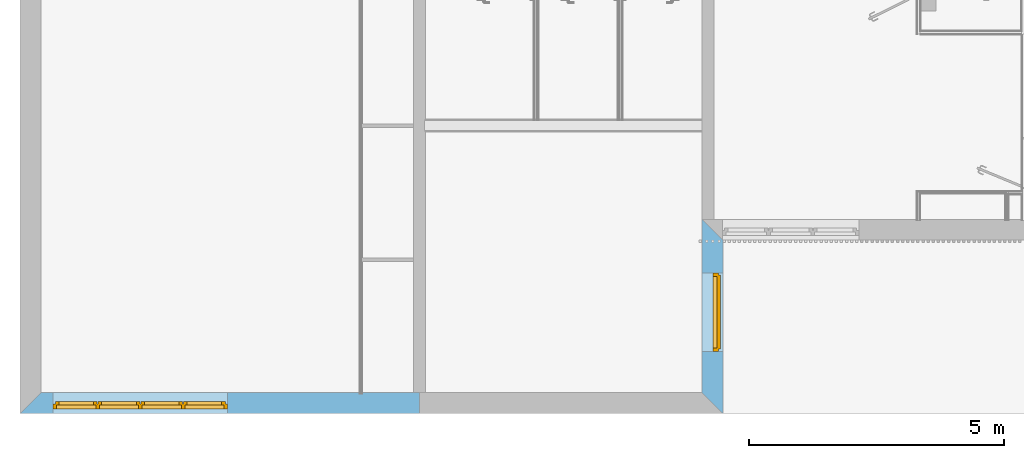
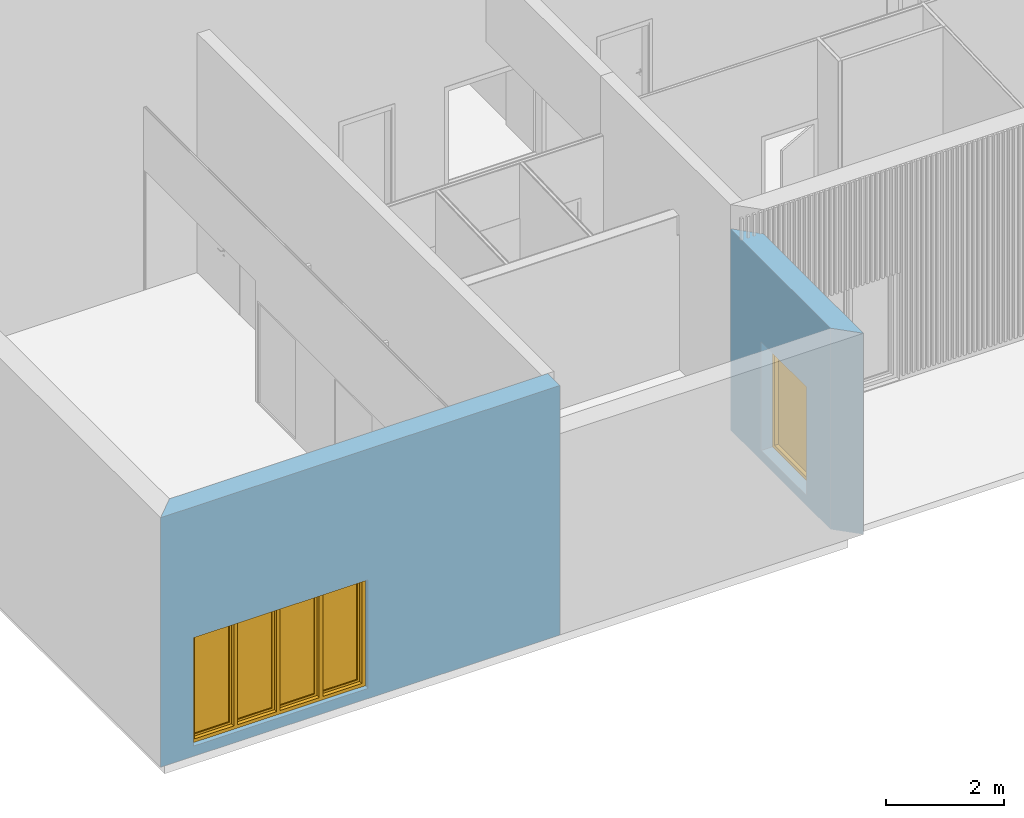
# One storey, part 7 of 34: 2 windows, 2 openings, plus 2 elements that do not belong to this part.
"""IFC2X3 building model written with IfcOpenShell, lengths in metres."""

from ifc_helpers import new_model, entity, si_unit, converted_unit, derived_unit, money_unit, direction, frame, origin_with_axes, origin_2d_with_axis, place, context, subcontext, project, spatial, polyline, rectangle, outline, extrude, open_shell, faceted_brep, surface_model, material, layer, layer_set, layer_usage, type_object, element, fill, save


model = new_model("IFC2X3")

# Units and contexts
model_context = context("Model", 3, precision=1e-05, world=origin_with_axes(), true_north=direction((0.0, 1.0)))
body_context = subcontext(model_context, "Body", "Model", "MODEL_VIEW")
ifc_project = project(units=[si_unit("LENGTHUNIT", "METRE"), si_unit("AREAUNIT", "SQUARE_METRE"), si_unit("VOLUMEUNIT", "CUBIC_METRE"), converted_unit("PLANEANGLEUNIT", "DEGREE", entity("IfcPlaneAngleMeasure", 0.0174532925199), si_unit("PLANEANGLEUNIT", "RADIAN"), dimensions=[0, 0, 0, 0, 0, 0, 0]), money_unit("CHF"), converted_unit("TIMEUNIT", "Year", entity("IfcTimeMeasure", 31556926.0), si_unit("TIMEUNIT", "SECOND"), dimensions=[0, 0, 1, 0, 0, 0, 0]), si_unit("MASSUNIT", "GRAM", prefix="KILO"), si_unit("THERMODYNAMICTEMPERATUREUNIT", "DEGREE_CELSIUS"), si_unit("LUMINOUSINTENSITYUNIT", "LUMEN"), si_unit("ENERGYUNIT", "JOULE", prefix="MEGA"), derived_unit("THERMALCONDUCTANCEUNIT", [(si_unit("POWERUNIT", "WATT"), 1), (si_unit("LENGTHUNIT", "METRE"), -1), (si_unit("THERMODYNAMICTEMPERATUREUNIT", "KELVIN"), -1)]), derived_unit("SPECIFICHEATCAPACITYUNIT", [(si_unit("ENERGYUNIT", "JOULE"), 1), (si_unit("MASSUNIT", "GRAM", prefix="KILO"), -1), (si_unit("THERMODYNAMICTEMPERATUREUNIT", "KELVIN"), -1)]), derived_unit("MASSDENSITYUNIT", [(si_unit("MASSUNIT", "GRAM", prefix="KILO"), 1), (si_unit("VOLUMEUNIT", "CUBIC_METRE"), -1)])], contexts=[model_context])

# Site, building, storey
site_placement = place(None, origin_with_axes())
site = spatial("IfcSite", under=ifc_project, at=site_placement, Name="Site", CompositionType="ELEMENT")
building_placement = place(site_placement, origin_with_axes())
building = spatial("IfcBuilding", under=site, at=building_placement, Name="Bâtiment", CompositionType="ELEMENT")
storey_placement = place(building_placement, origin_with_axes())
storey = spatial("IfcBuildingStorey", under=building, at=storey_placement, Name="Rez-de-chaussée", CompositionType="ELEMENT", Elevation=0.0)

# Wall, opening, window
ifc_material_1 = material(Name="Finition int - Enduit minéral")
ifc_layer_1 = layer(ifc_material_1, 0.01, ventilated="UNKNOWN")
ifc_material_2 = material(Name="Isolation - Fibres de bois")
ifc_layer_2 = layer(ifc_material_2, 0.18, ventilated="UNKNOWN")
ifc_material_3 = material(Name="Béton armé (Coulé)")
ifc_layer_3 = layer(ifc_material_3, 0.2, ventilated="UNKNOWN")
ifc_material_4 = material(Name="Finition int - Enduit plâtre")
ifc_layer_4 = layer(ifc_material_4, 0.02, ventilated="UNKNOWN")
ifc_layer_set = layer_set([ifc_layer_1, ifc_layer_2, ifc_layer_3, ifc_layer_4], Name="Mur 20cm + iso 18 + enduit")
ifc_layer_usage_1 = layer_usage(ifc_layer_set, "AXIS2", "NEGATIVE", 0.29)
wall_type = type_object("IfcWallType", Name="Mur 20cm + iso 18 + enduit  410", PredefinedType="NOTDEFINED")
wall_1_placement = place(storey_placement, frame((24.3494697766, 6.46012566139, -0.21), z_axis=(0.0, 0.0, 1.0), x_axis=(0.0, -1.0, 0.0)))
wall_1 = element("IfcWallStandardCase", 1, at=wall_1_placement, inside=storey, type_object=wall_type, material=ifc_layer_usage_1, Name="Mur ext 20+18isolant", context=body_context, shape_type="SweptSolid", body=[
    extrude(outline(polyline([(-0.12, -0.12), (3.27996015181, -0.12), (3.68996015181, 0.29), (0.29, 0.29), (-0.12, -0.12)])), origin_with_axes(), (0.0, 0.0, 1.0), 4.17),
])
opening_1_placement = place(wall_1_placement, frame((1.69996015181, 0.0, 0.21), z_axis=(0.0, 0.0, 1.0), x_axis=(1.0, 0.0, 0.0)))
opening_1 = element("IfcOpeningElement", 2, at=opening_1_placement, cuts=wall_1, Name="FENETRE-005", context=body_context, shape_type="SweptSolid", body=[
    extrude(rectangle(XDim=1.54, YDim=2.25, at=origin_2d_with_axis()), frame((0.0, 0.2, 1.125), z_axis=(0.0, -1.0, 0.0), x_axis=(-1.0, 0.0, 0.0)), (0.0, 0.0, 1.0), 0.73),
    extrude(rectangle(XDim=1.54, YDim=2.25, at=origin_2d_with_axis()), frame((0.0, 0.2, 1.125), z_axis=(0.0, 1.0, 0.0), x_axis=(-1.0, 0.0, 0.0)), (0.0, 0.0, 1.0), 0.5),
])
window_style_1 = type_object("IfcWindowStyle", Name="Fenêtre châssis double 26", ConstructionType="NOTDEFINED", OperationType="DOUBLE_PANEL_VERTICAL", ParameterTakesPrecedence=False, Sizeable=False)
window_1_placement = place(opening_1_placement, frame((-0.77, 0.0, 0.0), z_axis=(0.0, 0.0, 1.0), x_axis=(1.0, 0.0, 0.0)))
window_1 = element("IfcWindow", 3, at=window_1_placement, inside=storey, type_object=window_style_1, Name="FENETRE-005", ObjectType="WINDOW", OverallHeight=2.25, OverallWidth=1.54, context=body_context, shape_type="Brep", body=[
    faceted_brep([(1.495, 0.2, 2.18), (1.495, 0.175, 2.18), (1.47, 0.175, 2.18), (1.47, 0.1, 2.18), (1.54, 0.1, 2.18), (1.54, 0.2, 2.18), (1.495, 0.2, 0.07), (1.495, 0.175, 0.07), (1.47, 0.175, 0.07), (1.47, 0.1, 0.07), (1.54, 0.1, 0.07), (1.54, 0.2, 0.07)], [[[0, 1, 2, 3, 4, 5]], [[1, 0, 6, 7]], [[8, 2, 1, 7]], [[2, 8, 9, 3]], [[4, 3, 9, 10]], [[5, 4, 10, 11]], [[6, 0, 5, 11]], [[7, 6, 11, 10, 9, 8]]]),
    faceted_brep([(0.07, 0.175, 2.18), (0.045, 0.175, 2.18), (0.045, 0.2, 2.18), (0.0, 0.2, 2.18), (0.0, 0.1, 2.18), (0.07, 0.1, 2.18), (0.07, 0.175, 0.07), (0.045, 0.175, 0.07), (0.045, 0.2, 0.07), (0.0, 0.2, 0.07), (0.0, 0.1, 0.07), (0.07, 0.1, 0.07)], [[[0, 1, 2, 3, 4, 5]], [[1, 0, 6, 7]], [[8, 2, 1, 7]], [[2, 8, 9, 3]], [[9, 10, 4, 3]], [[10, 11, 5, 4]], [[6, 0, 5, 11]], [[7, 6, 11, 10, 9, 8]]]),
    faceted_brep([(0.07, 0.175, 0.07), (0.045, 0.175, 0.07), (0.045, 0.2, 0.07), (0.0, 0.2, 0.07), (0.0, 0.1, 0.07), (0.07, 0.1, 0.07), (1.47, 0.175, 0.07), (1.495, 0.175, 0.07), (1.495, 0.175, 0.045), (0.045, 0.175, 0.045), (0.045, 0.2, 0.045), (1.495, 0.2, 0.045), (1.495, 0.2, 0.07), (1.54, 0.2, 0.07), (1.54, 0.2, 0.0), (0.0, 0.2, 0.0), (0.0, 0.1, 0.0), (1.54, 0.1, 0.07), (1.47, 0.1, 0.07), (1.54, 0.1, 0.0)], [[[0, 1, 2, 3, 4, 5]], [[1, 0, 6, 7, 8, 9]], [[10, 2, 1, 9]], [[11, 12, 13, 14, 15, 3, 2, 10]], [[15, 16, 4, 3]], [[17, 18, 5, 4, 16, 19]], [[6, 0, 5, 18]], [[7, 6, 18, 17, 13, 12]], [[7, 12, 11, 8]], [[11, 10, 9, 8]], [[13, 17, 19, 14]], [[14, 19, 16, 15]]]),
    faceted_brep([(1.495, 0.2, 2.18), (1.495, 0.2, 2.205), (0.045, 0.2, 2.205), (0.045, 0.2, 2.18), (0.0, 0.2, 2.18), (0.0, 0.2, 2.25), (1.54, 0.2, 2.25), (1.54, 0.2, 2.18), (1.495, 0.175, 2.18), (1.495, 0.175, 2.205), (0.045, 0.175, 2.205), (0.045, 0.175, 2.18), (0.07, 0.175, 2.18), (0.07, 0.1, 2.18), (0.0, 0.1, 2.18), (0.0, 0.1, 2.25), (1.54, 0.1, 2.25), (1.54, 0.1, 2.18), (1.47, 0.1, 2.18), (1.47, 0.175, 2.18)], [[[0, 1, 2, 3, 4, 5, 6, 7]], [[1, 0, 8, 9]], [[2, 1, 9, 10]], [[3, 2, 10, 11]], [[11, 12, 13, 14, 4, 3]], [[4, 14, 15, 5]], [[5, 15, 16, 6]], [[6, 16, 17, 7]], [[8, 0, 7, 17, 18, 19]], [[12, 11, 10, 9, 8, 19]], [[12, 19, 18, 13]], [[14, 13, 18, 17, 16, 15]]]),
    faceted_brep([(1.495, 0.175, 0.045), (0.97, 0.175, 0.045), (0.97, 0.245, 0.045), (1.495, 0.245, 0.045), (1.495, 0.175, 2.205), (0.97, 0.175, 2.205), (0.97, 0.245, 2.205), (1.495, 0.245, 2.205)], [[[0, 1, 2, 3]], [[0, 4, 5, 1]], [[1, 5, 6, 2]], [[3, 2, 6, 7]], [[4, 0, 3, 7]], [[5, 4, 7, 6]]]),
    faceted_brep([(0.97, 0.175, 0.045), (0.045, 0.175, 0.045), (0.045, 0.245, 0.045), (0.97, 0.245, 0.045), (0.97, 0.175, 2.205), (0.045, 0.175, 2.205), (0.045, 0.245, 2.205), (0.97, 0.245, 2.205)], [[[0, 1, 2, 3]], [[0, 4, 5, 1]], [[1, 5, 6, 2]], [[3, 2, 6, 7]], [[4, 0, 3, 7]], [[5, 4, 7, 6]]]),
])
fill(opening_1, window_1)

ifc_layer_usage_2 = layer_usage(ifc_layer_set, "AXIS2", "NEGATIVE", 0.29)
wall_2_placement = place(storey_placement, frame((18.6894697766, 3.06016550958, -0.21), z_axis=(0.0, 0.0, 1.0), x_axis=(-1.0, 0.0, 0.0)))
wall_2 = element("IfcWallStandardCase", 4, at=wall_2_placement, inside=storey, type_object=wall_type, material=ifc_layer_usage_2, Name="Mur ext 20+18isolant", context=body_context, shape_type="SweptSolid", body=[
    extrude(outline(polyline([(0.0, -0.12), (7.42, -0.12), (7.83, 0.29), (0.0, 0.29), (0.0, -0.12)])), origin_with_axes(), (0.0, 0.0, 1.0), 5.17),
])
opening_2_placement = place(wall_2_placement, frame((5.47, 0.0, 0.21), z_axis=(0.0, 0.0, 1.0), x_axis=(1.0, 0.0, 0.0)))
opening_2 = element("IfcOpeningElement", 5, at=opening_2_placement, cuts=wall_2, Name="FENETRE-005", context=body_context, shape_type="SweptSolid", body=[
    extrude(rectangle(XDim=3.42, YDim=2.25, at=origin_2d_with_axis()), frame((0.0, 0.2, 1.125), z_axis=(0.0, -1.0, 0.0), x_axis=(1.0, 0.0, 0.0)), (0.0, 0.0, 1.0), 0.73),
    extrude(rectangle(XDim=3.42, YDim=2.25, at=origin_2d_with_axis()), frame((0.0, 0.2, 1.125), z_axis=(0.0, 1.0, 0.0), x_axis=(1.0, 0.0, 0.0)), (0.0, 0.0, 1.0), 0.5),
])
window_style_2 = type_object("IfcWindowStyle", Name="Fenêtre horizontale à châssis multiples 26", ConstructionType="NOTDEFINED", OperationType="USERDEFINED", ParameterTakesPrecedence=False, Sizeable=False)
window_2_placement = place(opening_2_placement, frame((1.71, 0.0, 0.0), z_axis=(0.0, 0.0, 1.0), x_axis=(-1.0, 0.0, 0.0)))
window_2 = element("IfcWindow", 6, at=window_2_placement, inside=storey, type_object=window_style_2, Name="FENETRE-005", ObjectType="WINDOW", OverallHeight=2.25, OverallWidth=3.42, context=body_context, shape_type="SurfaceModel", body=[
    faceted_brep([(3.375, -0.1, 2.18), (3.375, -0.125, 2.18), (3.35, -0.125, 2.18), (3.35, -0.2, 2.18), (3.42, -0.2, 2.18), (3.42, -0.1, 2.18), (3.375, -0.1, 0.07), (3.375, -0.125, 0.07), (3.35, -0.125, 0.07), (3.35, -0.2, 0.07), (3.42, -0.2, 0.07), (3.42, -0.1, 0.07)], [[[0, 1, 2, 3, 4, 5]], [[1, 0, 6, 7]], [[8, 2, 1, 7]], [[2, 8, 9, 3]], [[4, 3, 9, 10]], [[5, 4, 10, 11]], [[6, 0, 5, 11]], [[7, 6, 11, 10, 9, 8]]]),
    faceted_brep([(0.07, -0.125, 2.18), (0.045, -0.125, 2.18), (0.045, -0.1, 2.18), (0.0, -0.1, 2.18), (0.0, -0.2, 2.18), (0.07, -0.2, 2.18), (0.07, -0.125, 0.07), (0.045, -0.125, 0.07), (0.045, -0.1, 0.07), (0.0, -0.1, 0.07), (0.0, -0.2, 0.07), (0.07, -0.2, 0.07)], [[[0, 1, 2, 3, 4, 5]], [[1, 0, 6, 7]], [[8, 2, 1, 7]], [[2, 8, 9, 3]], [[9, 10, 4, 3]], [[10, 11, 5, 4]], [[6, 0, 5, 11]], [[7, 6, 11, 10, 9, 8]]]),
    faceted_brep([(1.7, -0.1, 2.18), (1.7, -0.1, 2.205), (0.8825, -0.1, 2.205), (0.8825, -0.1, 2.18), (0.8625, -0.1, 2.18), (0.8625, -0.1, 2.205), (0.045, -0.1, 2.205), (0.045, -0.1, 2.18), (0.0, -0.1, 2.18), (0.0, -0.1, 2.25), (3.42, -0.1, 2.25), (3.42, -0.1, 2.18), (3.375, -0.1, 2.18), (3.375, -0.1, 2.205), (2.5575, -0.1, 2.205), (2.5575, -0.1, 2.18), (2.5375, -0.1, 2.18), (2.5375, -0.1, 2.205), (1.72, -0.1, 2.205), (1.72, -0.1, 2.18), (1.7, -0.125, 2.18), (1.7, -0.125, 2.205), (0.8825, -0.125, 2.205), (0.8825, -0.125, 2.18), (0.9075, -0.125, 2.18), (0.9075, -0.2, 2.18), (0.8375, -0.2, 2.18), (0.8375, -0.125, 2.18), (0.8625, -0.125, 2.18), (0.8625, -0.125, 2.205), (0.045, -0.125, 2.205), (0.045, -0.125, 2.18), (0.07, -0.125, 2.18), (0.07, -0.2, 2.18), (0.0, -0.2, 2.18), (0.0, -0.2, 2.25), (3.42, -0.2, 2.25), (3.42, -0.2, 2.18), (3.375, -0.125, 2.18), (3.35, -0.2, 2.18), (3.35, -0.125, 2.18), (3.375, -0.125, 2.205), (2.5575, -0.125, 2.205), (2.5575, -0.125, 2.18), (2.5375, -0.125, 2.18), (2.5825, -0.125, 2.18), (2.5825, -0.2, 2.18), (2.5125, -0.2, 2.18), (2.5125, -0.125, 2.18), (2.5375, -0.125, 2.205), (1.72, -0.125, 2.205), (1.72, -0.125, 2.18), (1.745, -0.125, 2.18), (1.745, -0.2, 2.18), (1.675, -0.2, 2.18), (1.675, -0.125, 2.18)], [[[0, 1, 2, 3, 4, 5, 6, 7, 8, 9, 10, 11, 12, 13, 14, 15, 16, 17, 18, 19]], [[1, 0, 20, 21]], [[2, 1, 21, 22]], [[3, 2, 22, 23]], [[23, 24, 25, 26, 27, 28, 4, 3]], [[5, 4, 28, 29]], [[6, 5, 29, 30]], [[7, 6, 30, 31]], [[31, 32, 33, 34, 8, 7]], [[8, 34, 35, 9]], [[9, 35, 36, 10]], [[10, 36, 37, 11]], [[38, 12, 11, 37, 39, 40]], [[13, 12, 38, 41]], [[14, 13, 41, 42]], [[15, 14, 42, 43]], [[44, 16, 15, 43, 45, 46, 47, 48]], [[17, 16, 44, 49]], [[18, 17, 49, 50]], [[19, 18, 50, 51]], [[20, 0, 19, 51, 52, 53, 54, 55]], [[24, 23, 22, 21, 20, 55]], [[24, 55, 54, 25]], [[34, 33, 26, 25, 54, 53, 47, 46, 39, 37, 36, 35]], [[32, 27, 26, 33]], [[32, 31, 30, 29, 28, 27]], [[45, 40, 39, 46]], [[45, 43, 42, 41, 38, 40]], [[52, 48, 47, 53]], [[52, 51, 50, 49, 44, 48]]]),
    faceted_brep([(0.9075, -0.125, 0.07), (0.8825, -0.125, 0.07), (0.8825, -0.1, 0.07), (0.8625, -0.1, 0.07), (0.8625, -0.125, 0.07), (0.8375, -0.125, 0.07), (0.8375, -0.2, 0.07), (0.9075, -0.2, 0.07), (1.675, -0.125, 0.07), (1.7, -0.125, 0.07), (1.7, -0.125, 0.045), (0.8825, -0.125, 0.045), (0.8825, -0.1, 0.045), (1.7, -0.1, 0.045), (1.7, -0.1, 0.07), (1.72, -0.1, 0.07), (1.72, -0.1, 0.045), (2.5375, -0.1, 0.045), (2.5375, -0.1, 0.07), (2.5575, -0.1, 0.07), (2.5575, -0.1, 0.045), (3.375, -0.1, 0.045), (3.375, -0.1, 0.07), (3.42, -0.1, 0.07), (3.42, -0.1, 0.0), (0.0, -0.1, 0.0), (0.0, -0.1, 0.07), (0.045, -0.1, 0.07), (0.045, -0.1, 0.045), (0.8625, -0.1, 0.045), (0.8625, -0.125, 0.045), (0.045, -0.125, 0.07), (0.07, -0.125, 0.07), (0.045, -0.125, 0.045), (0.07, -0.2, 0.07), (0.0, -0.2, 0.07), (0.0, -0.2, 0.0), (3.42, -0.2, 0.0), (3.42, -0.2, 0.07), (3.35, -0.2, 0.07), (2.5825, -0.2, 0.07), (2.5125, -0.2, 0.07), (1.745, -0.2, 0.07), (1.675, -0.2, 0.07), (1.745, -0.125, 0.07), (1.72, -0.125, 0.07), (1.72, -0.125, 0.045), (2.5375, -0.125, 0.045), (2.5375, -0.125, 0.07), (2.5125, -0.125, 0.07), (2.5825, -0.125, 0.07), (2.5575, -0.125, 0.07), (2.5575, -0.125, 0.045), (3.375, -0.125, 0.045), (3.375, -0.125, 0.07), (3.35, -0.125, 0.07)], [[[0, 1, 2, 3, 4, 5, 6, 7]], [[1, 0, 8, 9, 10, 11]], [[12, 2, 1, 11]], [[13, 14, 15, 16, 17, 18, 19, 20, 21, 22, 23, 24, 25, 26, 27, 28, 29, 3, 2, 12]], [[4, 3, 29, 30]], [[31, 32, 5, 4, 30, 33]], [[5, 32, 34, 6]], [[7, 6, 34, 35, 36, 37, 38, 39, 40, 41, 42, 43]], [[8, 0, 7, 43]], [[9, 8, 43, 42, 44, 45, 15, 14]], [[9, 14, 13, 10]], [[13, 12, 11, 10]], [[16, 15, 45, 46]], [[17, 16, 46, 47]], [[48, 18, 17, 47]], [[48, 49, 41, 40, 50, 51, 19, 18]], [[20, 19, 51, 52]], [[21, 20, 52, 53]], [[54, 22, 21, 53]], [[54, 55, 39, 38, 23, 22]], [[23, 38, 37, 24]], [[24, 37, 36, 25]], [[25, 36, 35, 26]], [[32, 31, 27, 26, 35, 34]], [[28, 27, 31, 33]], [[29, 28, 33, 30]], [[55, 50, 40, 39]], [[49, 44, 42, 41]], [[45, 44, 49, 48, 47, 46]], [[51, 50, 55, 54, 53, 52]]]),
    faceted_brep([(2.5375, -0.1, 2.18), (2.5375, -0.125, 2.18), (2.5125, -0.125, 2.18), (2.5125, -0.2, 2.18), (2.5825, -0.2, 2.18), (2.5825, -0.125, 2.18), (2.5575, -0.125, 2.18), (2.5575, -0.1, 2.18), (2.5375, -0.1, 0.07), (2.5375, -0.125, 0.07), (2.5125, -0.125, 0.07), (2.5125, -0.2, 0.07), (2.5825, -0.2, 0.07), (2.5825, -0.125, 0.07), (2.5575, -0.125, 0.07), (2.5575, -0.1, 0.07)], [[[0, 1, 2, 3, 4, 5, 6, 7]], [[1, 0, 8, 9]], [[10, 2, 1, 9]], [[2, 10, 11, 3]], [[3, 11, 12, 4]], [[13, 5, 4, 12]], [[6, 5, 13, 14]], [[15, 7, 6, 14]], [[8, 0, 7, 15]], [[9, 8, 15, 14, 13, 12, 11, 10]]]),
    faceted_brep([(1.7, -0.1, 2.18), (1.7, -0.125, 2.18), (1.675, -0.125, 2.18), (1.675, -0.2, 2.18), (1.745, -0.2, 2.18), (1.745, -0.125, 2.18), (1.72, -0.125, 2.18), (1.72, -0.1, 2.18), (1.7, -0.1, 0.07), (1.7, -0.125, 0.07), (1.675, -0.125, 0.07), (1.675, -0.2, 0.07), (1.745, -0.2, 0.07), (1.745, -0.125, 0.07), (1.72, -0.125, 0.07), (1.72, -0.1, 0.07)], [[[0, 1, 2, 3, 4, 5, 6, 7]], [[1, 0, 8, 9]], [[10, 2, 1, 9]], [[2, 10, 11, 3]], [[3, 11, 12, 4]], [[13, 5, 4, 12]], [[6, 5, 13, 14]], [[15, 7, 6, 14]], [[8, 0, 7, 15]], [[9, 8, 15, 14, 13, 12, 11, 10]]]),
    faceted_brep([(0.9075, -0.125, 2.18), (0.8825, -0.125, 2.18), (0.8825, -0.1, 2.18), (0.8625, -0.1, 2.18), (0.8625, -0.125, 2.18), (0.8375, -0.125, 2.18), (0.8375, -0.2, 2.18), (0.9075, -0.2, 2.18), (0.9075, -0.125, 0.07), (0.8825, -0.125, 0.07), (0.8825, -0.1, 0.07), (0.8625, -0.1, 0.07), (0.8625, -0.125, 0.07), (0.8375, -0.125, 0.07), (0.8375, -0.2, 0.07), (0.9075, -0.2, 0.07)], [[[0, 1, 2, 3, 4, 5, 6, 7]], [[1, 0, 8, 9]], [[10, 2, 1, 9]], [[2, 10, 11, 3]], [[4, 3, 11, 12]], [[13, 5, 4, 12]], [[5, 13, 14, 6]], [[6, 14, 15, 7]], [[8, 0, 7, 15]], [[9, 8, 15, 14, 13, 12, 11, 10]]]),
    faceted_brep([(3.305, -0.125, 2.135), (3.375, -0.125, 2.135), (3.375, -0.055, 2.135), (3.305, -0.055, 2.135), (3.305, -0.125, 0.115), (3.375, -0.125, 0.115), (3.375, -0.055, 0.115), (3.305, -0.055, 0.115)], [[[0, 1, 2, 3]], [[0, 4, 5, 1]], [[1, 5, 6, 2]], [[3, 2, 6, 7]], [[4, 0, 3, 7]], [[5, 4, 7, 6]]]),
    faceted_brep([(2.6275, -0.125, 0.115), (2.5575, -0.125, 0.115), (2.5575, -0.055, 0.115), (2.6275, -0.055, 0.115), (2.6275, -0.125, 2.135), (2.5575, -0.125, 2.135), (2.5575, -0.055, 2.135), (2.6275, -0.055, 2.135)], [[[0, 1, 2, 3]], [[0, 4, 5, 1]], [[1, 5, 6, 2]], [[3, 2, 6, 7]], [[4, 0, 3, 7]], [[5, 4, 7, 6]]]),
    faceted_brep([(2.5575, -0.125, 0.045), (2.5575, -0.125, 0.115), (2.5575, -0.055, 0.115), (2.5575, -0.055, 0.045), (3.375, -0.125, 0.045), (3.375, -0.125, 0.115), (3.305, -0.125, 0.115), (2.6275, -0.125, 0.115), (2.6275, -0.055, 0.115), (3.305, -0.055, 0.115), (3.375, -0.055, 0.115), (3.375, -0.055, 0.045)], [[[0, 1, 2, 3]], [[0, 4, 5, 6, 7, 1]], [[1, 7, 8, 2]], [[3, 2, 8, 9, 10, 11]], [[4, 0, 3, 11]], [[5, 4, 11, 10]], [[6, 5, 10, 9]], [[7, 6, 9, 8]]]),
    faceted_brep([(3.375, -0.125, 2.205), (3.375, -0.125, 2.135), (3.375, -0.055, 2.135), (3.375, -0.055, 2.205), (2.5575, -0.125, 2.205), (2.5575, -0.125, 2.135), (2.6275, -0.125, 2.135), (3.305, -0.125, 2.135), (3.305, -0.055, 2.135), (2.6275, -0.055, 2.135), (2.5575, -0.055, 2.135), (2.5575, -0.055, 2.205)], [[[0, 1, 2, 3]], [[0, 4, 5, 6, 7, 1]], [[1, 7, 8, 2]], [[3, 2, 8, 9, 10, 11]], [[4, 0, 3, 11]], [[5, 4, 11, 10]], [[6, 5, 10, 9]], [[7, 6, 9, 8]]]),
    surface_model("IfcShellBasedSurfaceModel", [(3.305, -0.1, 0.115), (3.305, -0.1, 2.135), (2.6275, -0.1, 2.135), (2.6275, -0.1, 0.115)], [open_shell([[[0, 1, 2, 3]]])]),
    surface_model("IfcShellBasedSurfaceModel", [(3.305, -0.08, 0.115), (2.6275, -0.08, 0.115), (2.6275, -0.08, 2.135), (3.305, -0.08, 2.135)], [open_shell([[[0, 1, 2, 3]]])]),
    faceted_brep([(2.4675, -0.125, 2.135), (2.5375, -0.125, 2.135), (2.5375, -0.055, 2.135), (2.4675, -0.055, 2.135), (2.4675, -0.125, 0.115), (2.5375, -0.125, 0.115), (2.5375, -0.055, 0.115), (2.4675, -0.055, 0.115)], [[[0, 1, 2, 3]], [[0, 4, 5, 1]], [[1, 5, 6, 2]], [[3, 2, 6, 7]], [[4, 0, 3, 7]], [[5, 4, 7, 6]]]),
    faceted_brep([(1.79, -0.125, 0.115), (1.72, -0.125, 0.115), (1.72, -0.055, 0.115), (1.79, -0.055, 0.115), (1.79, -0.125, 2.135), (1.72, -0.125, 2.135), (1.72, -0.055, 2.135), (1.79, -0.055, 2.135)], [[[0, 1, 2, 3]], [[0, 4, 5, 1]], [[1, 5, 6, 2]], [[3, 2, 6, 7]], [[4, 0, 3, 7]], [[5, 4, 7, 6]]]),
    faceted_brep([(1.72, -0.125, 0.045), (1.72, -0.125, 0.115), (1.72, -0.055, 0.115), (1.72, -0.055, 0.045), (2.5375, -0.125, 0.045), (2.5375, -0.125, 0.115), (2.4675, -0.125, 0.115), (1.79, -0.125, 0.115), (1.79, -0.055, 0.115), (2.4675, -0.055, 0.115), (2.5375, -0.055, 0.115), (2.5375, -0.055, 0.045)], [[[0, 1, 2, 3]], [[0, 4, 5, 6, 7, 1]], [[1, 7, 8, 2]], [[3, 2, 8, 9, 10, 11]], [[4, 0, 3, 11]], [[5, 4, 11, 10]], [[6, 5, 10, 9]], [[7, 6, 9, 8]]]),
    faceted_brep([(2.5375, -0.125, 2.205), (2.5375, -0.125, 2.135), (2.5375, -0.055, 2.135), (2.5375, -0.055, 2.205), (1.72, -0.125, 2.205), (1.72, -0.125, 2.135), (1.79, -0.125, 2.135), (2.4675, -0.125, 2.135), (2.4675, -0.055, 2.135), (1.79, -0.055, 2.135), (1.72, -0.055, 2.135), (1.72, -0.055, 2.205)], [[[0, 1, 2, 3]], [[0, 4, 5, 6, 7, 1]], [[1, 7, 8, 2]], [[3, 2, 8, 9, 10, 11]], [[4, 0, 3, 11]], [[5, 4, 11, 10]], [[6, 5, 10, 9]], [[7, 6, 9, 8]]]),
    surface_model("IfcShellBasedSurfaceModel", [(2.4675, -0.1, 0.115), (2.4675, -0.1, 2.135), (1.79, -0.1, 2.135), (1.79, -0.1, 0.115)], [open_shell([[[0, 1, 2, 3]]])]),
    surface_model("IfcShellBasedSurfaceModel", [(2.4675, -0.08, 0.115), (1.79, -0.08, 0.115), (1.79, -0.08, 2.135), (2.4675, -0.08, 2.135)], [open_shell([[[0, 1, 2, 3]]])]),
    faceted_brep([(1.63, -0.125, 2.135), (1.7, -0.125, 2.135), (1.7, -0.055, 2.135), (1.63, -0.055, 2.135), (1.63, -0.125, 0.115), (1.7, -0.125, 0.115), (1.7, -0.055, 0.115), (1.63, -0.055, 0.115)], [[[0, 1, 2, 3]], [[0, 4, 5, 1]], [[1, 5, 6, 2]], [[3, 2, 6, 7]], [[4, 0, 3, 7]], [[5, 4, 7, 6]]]),
    faceted_brep([(0.9525, -0.125, 0.115), (0.8825, -0.125, 0.115), (0.8825, -0.055, 0.115), (0.9525, -0.055, 0.115), (0.9525, -0.125, 2.135), (0.8825, -0.125, 2.135), (0.8825, -0.055, 2.135), (0.9525, -0.055, 2.135)], [[[0, 1, 2, 3]], [[0, 4, 5, 1]], [[1, 5, 6, 2]], [[3, 2, 6, 7]], [[4, 0, 3, 7]], [[5, 4, 7, 6]]]),
    faceted_brep([(0.8825, -0.125, 0.045), (0.8825, -0.125, 0.115), (0.8825, -0.055, 0.115), (0.8825, -0.055, 0.045), (1.7, -0.125, 0.045), (1.7, -0.125, 0.115), (1.63, -0.125, 0.115), (0.9525, -0.125, 0.115), (0.9525, -0.055, 0.115), (1.63, -0.055, 0.115), (1.7, -0.055, 0.115), (1.7, -0.055, 0.045)], [[[0, 1, 2, 3]], [[0, 4, 5, 6, 7, 1]], [[1, 7, 8, 2]], [[3, 2, 8, 9, 10, 11]], [[4, 0, 3, 11]], [[5, 4, 11, 10]], [[6, 5, 10, 9]], [[7, 6, 9, 8]]]),
    faceted_brep([(1.7, -0.125, 2.205), (1.7, -0.125, 2.135), (1.7, -0.055, 2.135), (1.7, -0.055, 2.205), (0.8825, -0.125, 2.205), (0.8825, -0.125, 2.135), (0.9525, -0.125, 2.135), (1.63, -0.125, 2.135), (1.63, -0.055, 2.135), (0.9525, -0.055, 2.135), (0.8825, -0.055, 2.135), (0.8825, -0.055, 2.205)], [[[0, 1, 2, 3]], [[0, 4, 5, 6, 7, 1]], [[1, 7, 8, 2]], [[3, 2, 8, 9, 10, 11]], [[4, 0, 3, 11]], [[5, 4, 11, 10]], [[6, 5, 10, 9]], [[7, 6, 9, 8]]]),
    surface_model("IfcShellBasedSurfaceModel", [(1.63, -0.1, 0.115), (1.63, -0.1, 2.135), (0.9525, -0.1, 2.135), (0.9525, -0.1, 0.115)], [open_shell([[[0, 1, 2, 3]]])]),
    surface_model("IfcShellBasedSurfaceModel", [(1.63, -0.08, 0.115), (0.9525, -0.08, 0.115), (0.9525, -0.08, 2.135), (1.63, -0.08, 2.135)], [open_shell([[[0, 1, 2, 3]]])]),
    faceted_brep([(0.7925, -0.125, 2.135), (0.8625, -0.125, 2.135), (0.8625, -0.055, 2.135), (0.7925, -0.055, 2.135), (0.7925, -0.125, 0.115), (0.8625, -0.125, 0.115), (0.8625, -0.055, 0.115), (0.7925, -0.055, 0.115)], [[[0, 1, 2, 3]], [[0, 4, 5, 1]], [[1, 5, 6, 2]], [[3, 2, 6, 7]], [[4, 0, 3, 7]], [[5, 4, 7, 6]]]),
    faceted_brep([(0.115, -0.125, 0.115), (0.045, -0.125, 0.115), (0.045, -0.055, 0.115), (0.115, -0.055, 0.115), (0.115, -0.125, 2.135), (0.045, -0.125, 2.135), (0.045, -0.055, 2.135), (0.115, -0.055, 2.135)], [[[0, 1, 2, 3]], [[0, 4, 5, 1]], [[1, 5, 6, 2]], [[3, 2, 6, 7]], [[4, 0, 3, 7]], [[5, 4, 7, 6]]]),
    faceted_brep([(0.045, -0.125, 0.045), (0.045, -0.125, 0.115), (0.045, -0.055, 0.115), (0.045, -0.055, 0.045), (0.8625, -0.125, 0.045), (0.8625, -0.125, 0.115), (0.7925, -0.125, 0.115), (0.115, -0.125, 0.115), (0.115, -0.055, 0.115), (0.7925, -0.055, 0.115), (0.8625, -0.055, 0.115), (0.8625, -0.055, 0.045)], [[[0, 1, 2, 3]], [[0, 4, 5, 6, 7, 1]], [[1, 7, 8, 2]], [[3, 2, 8, 9, 10, 11]], [[4, 0, 3, 11]], [[5, 4, 11, 10]], [[6, 5, 10, 9]], [[7, 6, 9, 8]]]),
    faceted_brep([(0.8625, -0.125, 2.205), (0.8625, -0.125, 2.135), (0.8625, -0.055, 2.135), (0.8625, -0.055, 2.205), (0.045, -0.125, 2.205), (0.045, -0.125, 2.135), (0.115, -0.125, 2.135), (0.7925, -0.125, 2.135), (0.7925, -0.055, 2.135), (0.115, -0.055, 2.135), (0.045, -0.055, 2.135), (0.045, -0.055, 2.205)], [[[0, 1, 2, 3]], [[0, 4, 5, 6, 7, 1]], [[1, 7, 8, 2]], [[3, 2, 8, 9, 10, 11]], [[4, 0, 3, 11]], [[5, 4, 11, 10]], [[6, 5, 10, 9]], [[7, 6, 9, 8]]]),
    surface_model("IfcShellBasedSurfaceModel", [(0.7925, -0.1, 0.115), (0.7925, -0.1, 2.135), (0.115, -0.1, 2.135), (0.115, -0.1, 0.115)], [open_shell([[[0, 1, 2, 3]]])]),
    surface_model("IfcShellBasedSurfaceModel", [(0.7925, -0.08, 0.115), (0.115, -0.08, 0.115), (0.115, -0.08, 2.135), (0.7925, -0.08, 2.135)], [open_shell([[[0, 1, 2, 3]]])]),
])
fill(opening_2, window_2)

save(model, "model.ifc")
